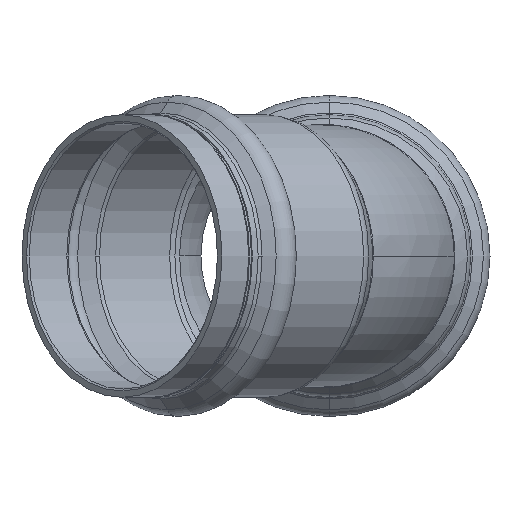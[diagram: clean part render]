
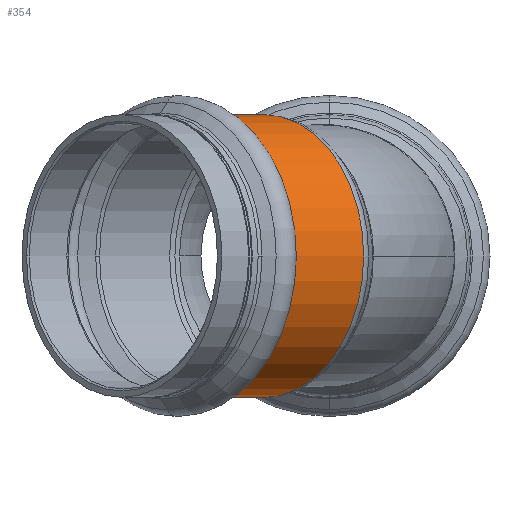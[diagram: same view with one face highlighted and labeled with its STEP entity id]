
A CAD part, left-side view. The second image highlights one B-rep face of the part: STEP entity #354.
In plain terms, the highlighted cylindrical face has radius 28.9 mm (diameter 57.8 mm), a partial arc.
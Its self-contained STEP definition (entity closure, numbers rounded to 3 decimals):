
#31 = VERTEX_POINT ( 'NONE', #715 ) ;
#65 = VECTOR ( 'NONE', #1400, 1000. ) ;
#206 = AXIS2_PLACEMENT_3D ( 'NONE', #1499, #2757, #4270 ) ;
#354 = ADVANCED_FACE ( 'NONE', ( #4164 ), #2185, .T. ) ;
#428 = DIRECTION ( 'NONE',  ( -0.707, 0.707, 0. ) ) ;
#498 = EDGE_CURVE ( 'NONE', #651, #31, #626, .T. ) ;
#527 = CARTESIAN_POINT ( 'NONE',  ( -47.645, 6.774, 0. ) ) ;
#592 = CARTESIAN_POINT ( 'NONE',  ( -27.21, 27.21, 28.9 ) ) ;
#620 = CARTESIAN_POINT ( 'NONE',  ( -13.435, 13.435, -28.9 ) ) ;
#626 = CIRCLE ( 'NONE', #3920, 28.9 ) ;
#651 = VERTEX_POINT ( 'NONE', #527 ) ;
#715 = CARTESIAN_POINT ( 'NONE',  ( -27.21, 27.21, -28.9 ) ) ;
#760 = EDGE_LOOP ( 'NONE', ( #3222, #1475, #3897, #2261, #3800 ) ) ;
#1072 = DIRECTION ( 'NONE',  ( 0.707, 0.707, 0. ) ) ;
#1305 = DIRECTION ( 'NONE',  ( 0.707, -0.707, 0. ) ) ;
#1362 = CARTESIAN_POINT ( 'NONE',  ( -27.21, 27.21, 0. ) ) ;
#1400 = DIRECTION ( 'NONE',  ( -0.707, 0.707, 0. ) ) ;
#1474 = DIRECTION ( 'NONE',  ( 0.707, 0.707, 0. ) ) ;
#1475 = ORIENTED_EDGE ( 'NONE', *, *, #2721, .T. ) ;
#1499 = CARTESIAN_POINT ( 'NONE',  ( -25.175, 25.175, 0. ) ) ;
#1505 = DIRECTION ( 'NONE',  ( 0.707, -0.707, 0. ) ) ;
#1519 = CARTESIAN_POINT ( 'NONE',  ( -27.21, 27.21, 0. ) ) ;
#1572 = EDGE_CURVE ( 'NONE', #3370, #4070, #3086, .T. ) ;
#1666 = AXIS2_PLACEMENT_3D ( 'NONE', #3230, #3263, #3371 ) ;
#1897 = CARTESIAN_POINT ( 'NONE',  ( -25.175, 25.175, -28.9 ) ) ;
#2185 = CYLINDRICAL_SURFACE ( 'NONE', #206, 28.9 ) ;
#2216 = AXIS2_PLACEMENT_3D ( 'NONE', #1362, #1305, #1072 ) ;
#2261 = ORIENTED_EDGE ( 'NONE', *, *, #498, .T. ) ;
#2545 = CARTESIAN_POINT ( 'NONE',  ( -13.435, 13.435, 28.9 ) ) ;
#2721 = EDGE_CURVE ( 'NONE', #3370, #4090, #3210, .T. ) ;
#2757 = DIRECTION ( 'NONE',  ( -0.707, 0.707, 0. ) ) ;
#2809 = EDGE_CURVE ( 'NONE', #4090, #651, #3021, .T. ) ;
#2846 = EDGE_CURVE ( 'NONE', #4070, #31, #2915, .T. ) ;
#2915 = LINE ( 'NONE', #1897, #65 ) ;
#3021 = CIRCLE ( 'NONE', #2216, 28.9 ) ;
#3086 = CIRCLE ( 'NONE', #1666, 28.9 ) ;
#3210 = LINE ( 'NONE', #4159, #3885 ) ;
#3222 = ORIENTED_EDGE ( 'NONE', *, *, #1572, .F. ) ;
#3230 = CARTESIAN_POINT ( 'NONE',  ( -13.435, 13.435, 0. ) ) ;
#3263 = DIRECTION ( 'NONE',  ( 0.707, -0.707, 0. ) ) ;
#3370 = VERTEX_POINT ( 'NONE', #2545 ) ;
#3371 = DIRECTION ( 'NONE',  ( 0., 0., -1. ) ) ;
#3800 = ORIENTED_EDGE ( 'NONE', *, *, #2846, .F. ) ;
#3885 = VECTOR ( 'NONE', #428, 1000. ) ;
#3897 = ORIENTED_EDGE ( 'NONE', *, *, #2809, .T. ) ;
#3920 = AXIS2_PLACEMENT_3D ( 'NONE', #1519, #1505, #1474 ) ;
#4070 = VERTEX_POINT ( 'NONE', #620 ) ;
#4090 = VERTEX_POINT ( 'NONE', #592 ) ;
#4159 = CARTESIAN_POINT ( 'NONE',  ( -25.175, 25.175, 28.9 ) ) ;
#4164 = FACE_OUTER_BOUND ( 'NONE', #760, .T. ) ;
#4270 = DIRECTION ( 'NONE',  ( 0., 0., -1. ) ) ;
